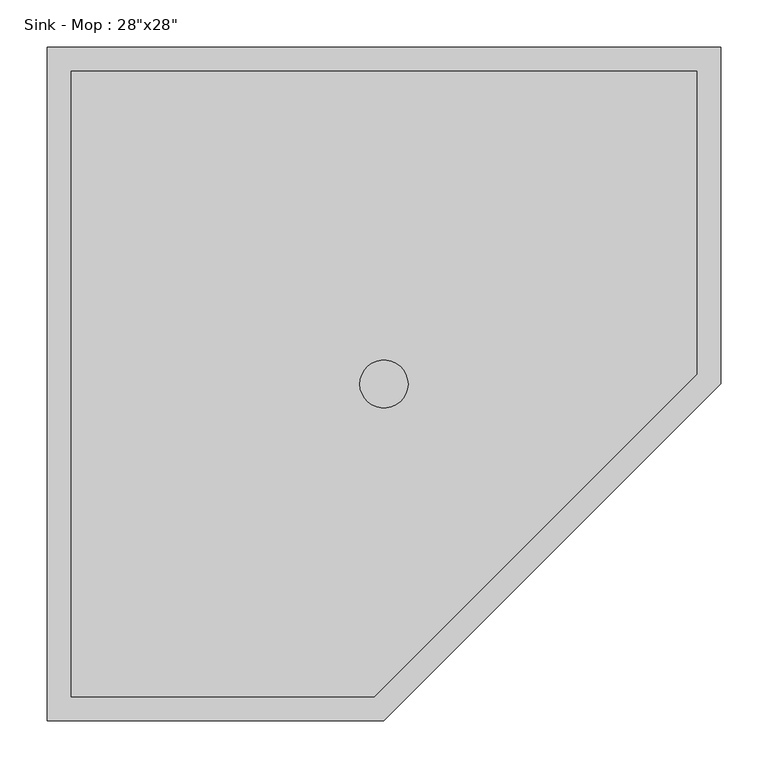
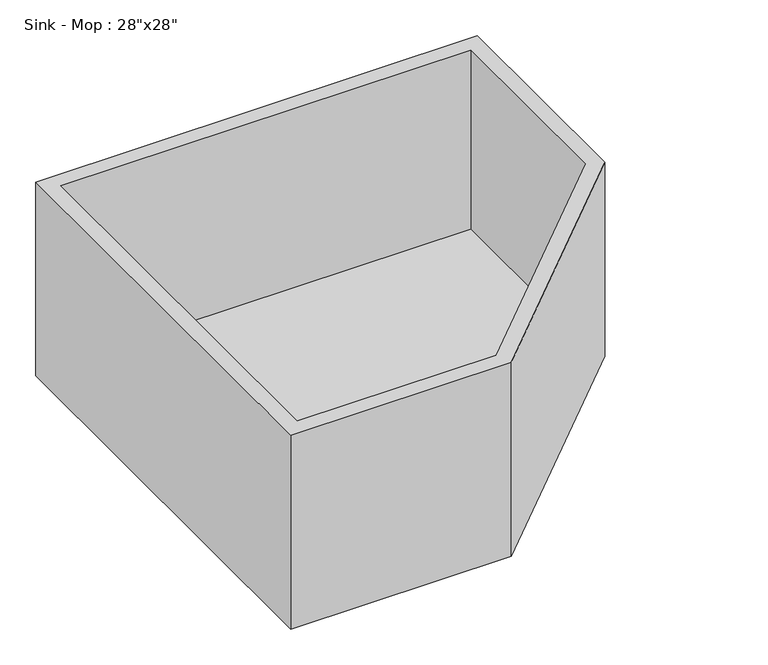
"""IFC4 building model written with IfcOpenShell, lengths in millimetres: flow terminal geometry."""

from ifc_helpers import new_model, si_unit, point, frame, frame_2d, origin, origin_with_axes, place, context, project, spatial, polyline, circle_curve, trimmed, segment, composite_curve, outline, extrude, source, transform, mapped, element, save
from ifc_brep_helpers import plane_surface, revolved_surface, advanced_brep


def flow_terminal_3fd0b982(model_context):
    return source(origin(), model_context, "Body", "SolidModel", [
        extrude(outline(composite_curve([segment(trimmed(circle_curve(frame_2d((355.6, -355.6)), 25.4), [point((330.2, -355.6))], [point((381.0, -355.6))], False, "CARTESIAN"), True, "CONTINUOUS"), segment(trimmed(circle_curve(frame_2d((355.6, -355.6)), 25.4), [point((381.0, -355.6))], [point((330.2, -355.6))], False, "CARTESIAN"), True, "CONTINUOUS")], self_intersect=False)), origin_with_axes(), (0.0, 0.0, 1.0), 25.4),
        advanced_brep(
        [(711.2, 0.0, 330.2), (0.0, 0.0, 330.2), (0.0, -711.2, 330.2), (355.6, -711.2, 330.2), (711.2, -355.6, 330.2), (25.4, -25.4, 330.2), (685.8, -25.4, 330.2), (685.8, -345.0789755, 330.2), (345.0789755, -685.8, 330.2), (25.4, -685.8, 330.2), (711.2, 0.0, 0.0), (711.2, -355.6, 0.0), (355.6, -711.2, 0.0), (0.0, -711.2, 0.0), (0.0, 0.0, 0.0), (330.2, -355.6, 0.0), (381.0, -355.6, 0.0), (685.8, -25.4, 25.4), (25.4, -25.4, 25.4), (25.4, -685.8, 25.4), (345.0789755, -685.8, 25.4), (685.8, -345.0789755, 25.4), (381.0, -355.6, 25.4), (330.2, -355.6, 25.4)],
        [
            (0, 1),
            (1, 2),
            (2, 3),
            (3, 4),
            (4, 0),
            (5, 6),
            (6, 7),
            (7, 8),
            (8, 9),
            (9, 5),
            (10, 11),
            (11, 12),
            (12, 13),
            (13, 14),
            (14, 10),
            (15, 16, circle_curve(frame((355.6, -355.6, 0.0), z_axis=(0.0, 0.0, 1.0), x_axis=(1.0, 0.0, 0.0)), 25.4)),
            (16, 15, circle_curve(frame((355.6, -355.6, 0.0), z_axis=(0.0, 0.0, 1.0), x_axis=(1.0, 0.0, 0.0)), 25.4)),
            (0, 10),
            (14, 1),
            (13, 2),
            (12, 3),
            (11, 4),
            (17, 18),
            (18, 19),
            (19, 20),
            (20, 21),
            (21, 17),
            (22, 23, circle_curve(frame((355.6, -355.6, 25.4), z_axis=(0.0, 0.0, -1.0), x_axis=(1.0, 0.0, 0.0)), 25.4)),
            (23, 22, circle_curve(frame((355.6, -355.6, 25.4), z_axis=(0.0, 0.0, -1.0), x_axis=(1.0, 0.0, 0.0)), 25.4)),
            (17, 6),
            (5, 18),
            (9, 19),
            (8, 20),
            (7, 21),
            (22, 16),
            (15, 23),
        ],
        [
            plane_surface(frame((0.0, 0.0, 330.2), z_axis=(0.0, 0.0, 1.0), x_axis=(-1.0, 0.0, 0.0))),
            plane_surface(frame((0.0, 0.0, 0.0), z_axis=(0.0, 0.0, -1.0), x_axis=(1.0, 0.0, 0.0))),
            plane_surface(frame((711.2, 0.0, 330.2), z_axis=(0.0, 1.0, 0.0), x_axis=(0.0, 0.0, -1.0))),
            plane_surface(frame((0.0, 0.0, 330.2), z_axis=(-1.0, 0.0, 0.0), x_axis=(0.0, 0.0, -1.0))),
            plane_surface(frame((0.0, -711.2, 330.2), z_axis=(0.0, -1.0, 0.0), x_axis=(0.0, 0.0, -1.0))),
            plane_surface(frame((355.6, -711.2, 330.2), z_axis=(0.7071067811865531, -0.707106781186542, 0.0), x_axis=(0.0, 0.0, -1.0))),
            plane_surface(frame((711.2, -355.6, 330.2), z_axis=(1.0, 0.0, 0.0), x_axis=(0.0, 0.0, -1.0))),
            plane_surface(frame((25.4, -25.4, 25.4), z_axis=(0.0, 0.0, 1.0), x_axis=(1.0, 0.0, 0.0))),
            plane_surface(frame((685.8, -25.4, 330.2), z_axis=(0.0, -1.0, 0.0), x_axis=(0.0, 0.0, -1.0))),
            plane_surface(frame((25.4, -25.4, 330.2), z_axis=(1.0, 0.0, 0.0), x_axis=(0.0, 0.0, -1.0))),
            plane_surface(frame((25.4, -685.8, 330.2), z_axis=(0.0, 1.0, 0.0), x_axis=(0.0, 0.0, -1.0))),
            plane_surface(frame((345.0789755, -685.8, 330.2), z_axis=(-0.7071067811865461, 0.7071067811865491, 0.0), x_axis=(0.0, 0.0, -1.0))),
            plane_surface(frame((685.8, -345.0789755, 330.2), z_axis=(-1.0, 0.0, 0.0), x_axis=(0.0, 0.0, -1.0))),
            revolved_surface(polyline([(381.0, -355.6, 25.4), (381.0, -355.6, 0.0)]), (355.6, -355.6, 0.0), (0.0, 0.0, 1.0)),
        ],
        [
            (0, [[1, 2, 3, 4, 5], [6, 7, 8, 9, 10]]),
            (1, [[11, 12, 13, 14, 15], [16, 17]]),
            (2, [[-1, 18, -15, 19]]),
            (3, [[-2, -19, -14, 20]]),
            (4, [[-3, -20, -13, 21]]),
            (5, [[-4, -21, -12, 22]]),
            (6, [[-5, -22, -11, -18]]),
            (7, [[23, 24, 25, 26, 27], [28, 29]]),
            (8, [[-23, 30, -6, 31]]),
            (9, [[-24, -31, -10, 32]]),
            (10, [[-25, -32, -9, 33]]),
            (11, [[-26, -33, -8, 34]]),
            (12, [[-27, -34, -7, -30]]),
            (13, [[35, -16, 36, -28]]),
            (13, [[-35, -29, -36, -17]]),
        ],
    ),
    ])


if __name__ == "__main__":
    model = new_model("IFC4")
    model_context = context("Model", 3, world=origin())
    ifc_project = project(units=[si_unit("LENGTHUNIT", "METRE", prefix="MILLI")], contexts=[model_context])
    site = spatial("IfcSite", under=ifc_project)
    building = spatial("IfcBuilding", under=site)
    placement = place(None, origin())
    flow_terminal_shape = flow_terminal_3fd0b982(model_context)
    element("IfcFlowTerminal", 1, ObjectType="Sink - Mop : 28\"x28\"", at=placement, inside=building, context=model_context, shape_type="MappedRepresentation", body=[
        mapped(flow_terminal_shape, transform((0.0, 0.0, 0.0), x_axis=(1.0, 0.0, 0.0), y_axis=(0.0, 1.0, 0.0), z_axis=(0.0, 0.0, 1.0))),
    ])
    save(model, "model.ifc")
